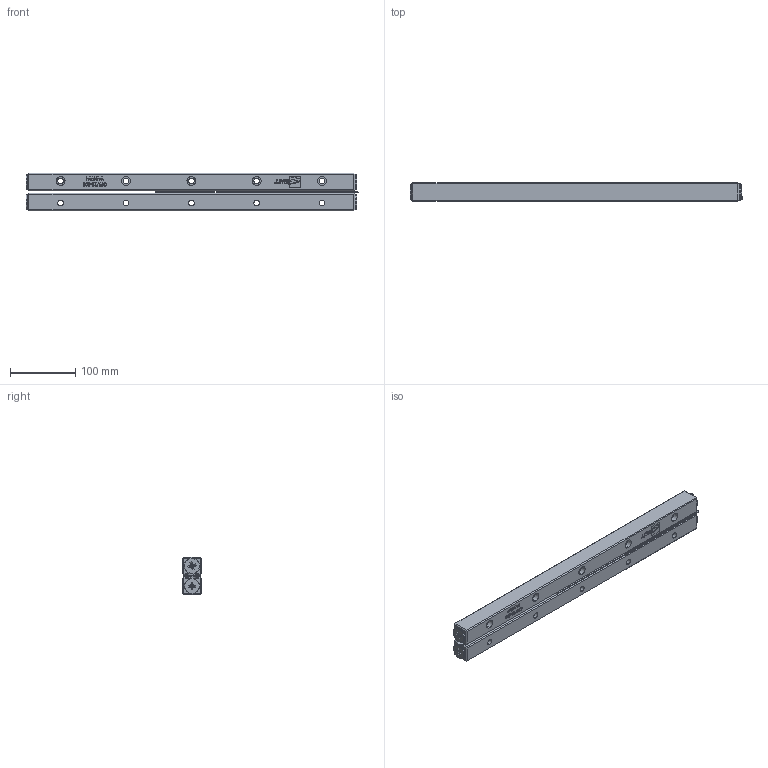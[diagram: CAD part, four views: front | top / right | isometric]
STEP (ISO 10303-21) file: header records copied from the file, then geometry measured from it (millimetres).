
FILE_DESCRIPTION (( 'STEP AP203' ), '1' );
FILE_NAME ('GRV12-500.STEP', '2012-10-17T05:18:09', ( '123' ), ( '' ), 'SwSTEP 2.0', 'SolidWorks 2012', '' );
FILE_SCHEMA (( 'CONFIG_CONTROL_DESIGN' ));
Length unit declared in the file: millimetre
Products named in the file (1): GRV12-500
Bounding box: 508 x 28 x 58 mm (x, y, z)
Surface area: 138712 mm2 (no closed solid volume)
Topology: 0 solids, 39 shells, 297 faces, 1657 edges, 1408 vertices
Faces by surface type: plane 212, cylinder 52, torus 20, cone 8, bspline 5
Entity records: 19656 total; most frequent: CARTESIAN_POINT 7124, DIRECTION 2355, ORIENTED_EDGE 2222, EDGE_CURVE 1657, VERTEX_POINT 1408, LINE 1065, VECTOR 1065, AXIS2_PLACEMENT_3D 645
